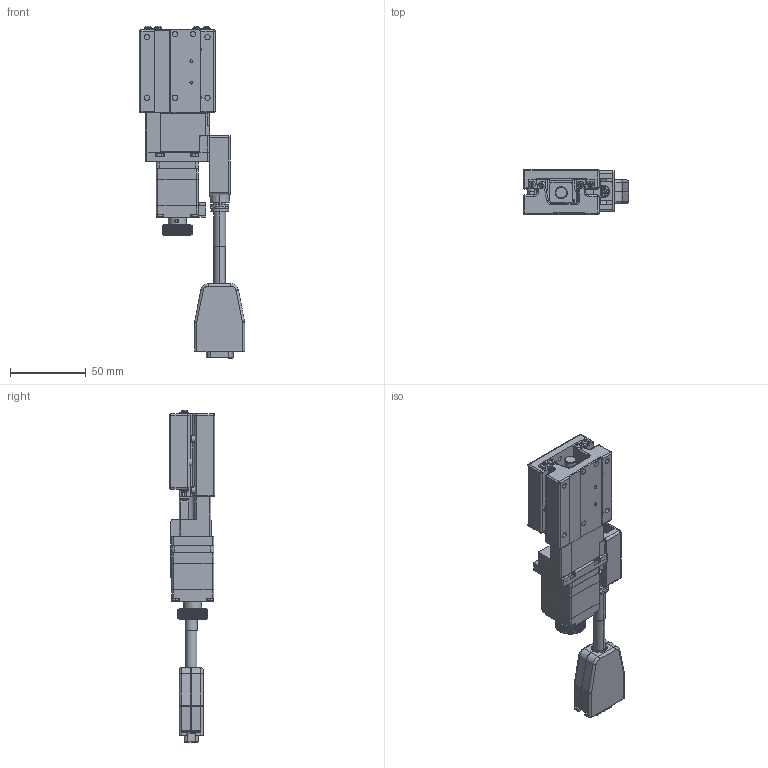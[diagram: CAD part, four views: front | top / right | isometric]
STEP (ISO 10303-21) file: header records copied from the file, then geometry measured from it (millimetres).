
FILE_DESCRIPTION (( 'STEP AP203' ), '1' );
FILE_NAME ('CXS5020-S2OP.STEP', '2024-10-14T00:10:31', ( '' ), ( '' ), 'SwSTEP 2.0', 'SolidWorks 2019', '' );
FILE_SCHEMA (( 'CONFIG_CONTROL_DESIGN' ));
Length unit declared in the file: millimetre
Products named in the file (8): CXS5020-S2OP; SC2.5B006_SCM435(化鎳); Group2^CXS5020(28框無馬達)_defeature_GMT; AR39-A3P-10; Group1^CXS5020(28框無馬達)_defeature_GMT; CXS50-G28_GMT; CXS60-504; PKP523BK_前端8mm後端10mm
Assembly tree (10 placements, depth 2):
  CXS5020-S2OP
    Group1^CXS5020(28框無馬達)_defeature_GMT
    Group2^CXS5020(28框無馬達)_defeature_GMT
    CXS50-G28_GMT
    PKP523BK_前端8mm後端10mm
    AR39-A3P-10
    CXS60-504
    SC2.5B006_SCM435(化鎳)  x4
Bounding box: 69.5 x 30 x 219.48 mm (x, y, z)
Volume: 132952.2 mm3; surface area: 66307 mm2
Topology: 11 solids, 11 shells, 6009 faces, 15672 edges, 9924 vertices
Faces by surface type: plane 3196, bspline 1332, cylinder 1034, torus 220, cone 191, sphere 36
Entity records: 200705 total; most frequent: CARTESIAN_POINT 65969, ORIENTED_EDGE 30760, DIRECTION 22524, EDGE_CURVE 15380, VERTEX_POINT 9825, LINE 8568, VECTOR 8568, AXIS2_PLACEMENT_3D 6978
